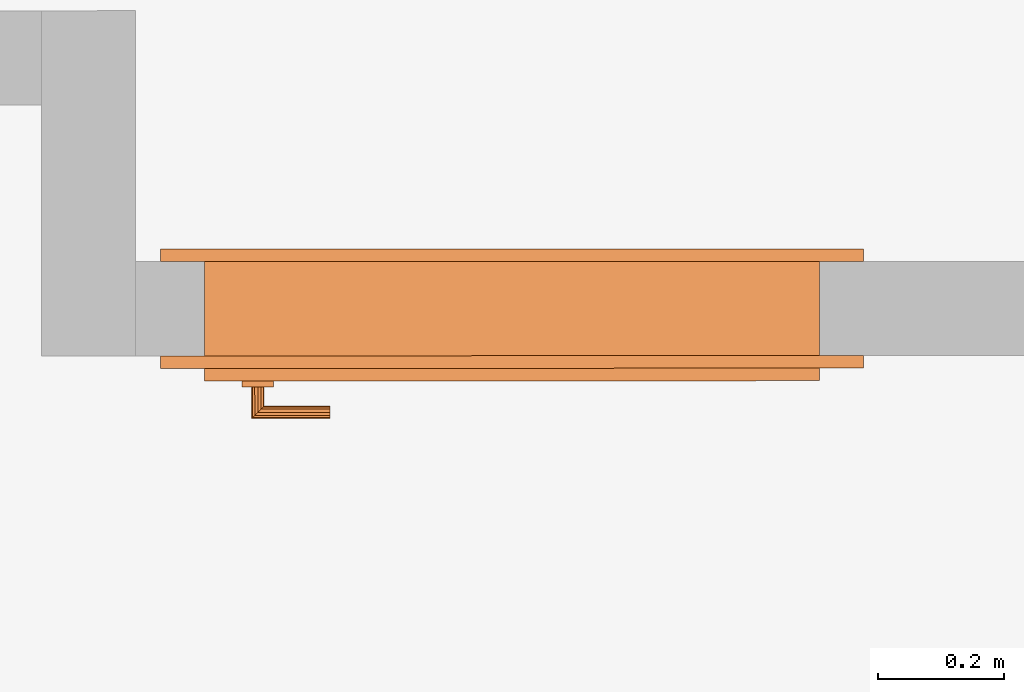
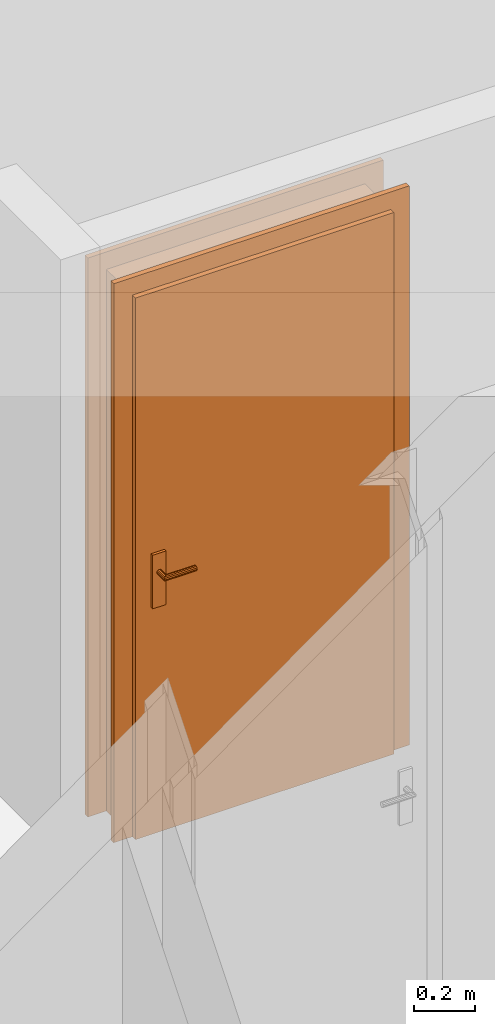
# One storey, part 8 of 9: 1 proxy.
"""IFC2X3 building model written with IfcOpenShell, lengths in metres."""

from ifc_helpers import new_model, entity, si_unit, converted_unit, derived_unit, direction, frame, origin, origin_with_axes, place, context, subcontext, project, spatial, faceted_brep, source, transform, mapped, element, save


model = new_model("IFC2X3")

# Units and contexts
model_context = context("Model", 3, precision=1e-05, world=origin(), true_north=direction((0.772621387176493, -0.634867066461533)))
body_context = subcontext(model_context, "Body", "Model", "MODEL_VIEW")
ifc_project = project(units=[si_unit("LENGTHUNIT", "METRE"), si_unit("AREAUNIT", "SQUARE_METRE"), si_unit("VOLUMEUNIT", "CUBIC_METRE"), si_unit("MASSUNIT", "GRAM", prefix="KILO"), converted_unit("PLANEANGLEUNIT", "DEGREE", entity("IfcPlaneAngleMeasure", 0.0174532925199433), si_unit("PLANEANGLEUNIT", "RADIAN"), dimensions=[0, 0, 0, 0, 0, 0, 0]), derived_unit("THERMALTRANSMITTANCEUNIT", [(si_unit("POWERUNIT", "WATT"), 1), (si_unit("THERMODYNAMICTEMPERATUREUNIT", "KELVIN"), -1), (si_unit("LENGTHUNIT", "METRE"), -2)]), derived_unit("VOLUMETRICFLOWRATEUNIT", [(si_unit("LENGTHUNIT", "METRE"), 3), (converted_unit("TIMEUNIT", "hour", entity("IfcTimeMeasure", 3600.0), si_unit("TIMEUNIT", "SECOND"), dimensions=[0, 0, 1, 0, 0, 0, 0]), -1), (si_unit("LENGTHUNIT", "METRE"), -1)])], contexts=[model_context])

# Site, building, storey
site_placement = place(None, origin())
site = spatial("IfcSite", under=ifc_project, at=site_placement, Name="Modelle auf dem Nullpunkt", CompositionType="ELEMENT")
building_placement = place(site_placement, origin())
building = spatial("IfcBuilding", under=site, at=building_placement, Name="I", CompositionType="ELEMENT")
storey_placement = place(building_placement, origin())
storey = spatial("IfcBuildingStorey", under=building, at=storey_placement, Name="UG", CompositionType="ELEMENT", Elevation=0.0)

# Proxy
shared_shape = source(origin_with_axes(), body_context, "Body", "Brep", [
    faceted_brep([(1.05000000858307, 0.190000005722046, 2.17), (1.03000000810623, 0.190000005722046, 2.17), (1.03000000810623, 0.190000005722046, 0.0), (1.05000000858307, 0.190000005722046, 0.0), (1.05000000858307, 0.0, 0.0), (1.03000000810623, 0.0, 0.0), (1.03000000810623, 0.0, 2.17), (1.05000000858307, 0.0, 2.17)], [[[0, 1, 2, 3]], [[4, 5, 6, 7]], [[3, 4, 7, 0]], [[2, 5, 4, 3]], [[1, 6, 5, 2]], [[0, 7, 6, 1]]], orient=[[False], [False], [False], [False], [False], [False]]),
    faceted_brep([(1.05000000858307, 0.190000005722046, 2.24), (1.05000000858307, 0.190000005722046, 0.0), (1.12000000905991, 0.190000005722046, 0.0), (1.12000000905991, 0.190000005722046, 2.24), (1.05000000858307, 0.170000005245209, 0.0), (1.05000000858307, 0.170000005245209, 2.24), (1.12000000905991, 0.170000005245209, 2.24), (1.12000000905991, 0.170000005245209, 0.0)], [[[0, 1, 2, 3]], [[4, 5, 6, 7]], [[1, 0, 5, 4]], [[2, 1, 4, 7]], [[3, 2, 7, 6]], [[0, 3, 6, 5]]], orient=[[False], [False], [False], [False], [False], [False]]),
    faceted_brep([(1.05000000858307, 0.0200000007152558, 2.24), (1.05000000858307, 0.0200000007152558, 0.0), (1.12000000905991, 0.0200000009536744, 0.0), (1.12000000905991, 0.0200000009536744, 2.24), (1.05000000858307, 0.0, 0.0), (1.05000000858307, 0.0, 2.24), (1.12000000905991, 0.0, 2.24), (1.12000000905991, 0.0, 0.0)], [[[0, 1, 2, 3]], [[4, 5, 6, 7]], [[1, 0, 5, 4]], [[2, 1, 4, 7]], [[3, 2, 7, 6]], [[0, 3, 6, 5]]], orient=[[False], [False], [False], [False], [False], [False]]),
    faceted_brep([(0.0900000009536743, 0.190000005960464, 2.17), (0.0700000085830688, 0.190000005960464, 2.17), (0.0700000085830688, 0.190000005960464, 0.0), (0.0900000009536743, 0.190000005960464, 0.0), (0.0900000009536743, 0.0, 0.0), (0.0700000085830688, 0.0, 0.0), (0.0700000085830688, 0.0, 2.17), (0.0900000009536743, 0.0, 2.17)], [[[0, 1, 2, 3]], [[4, 5, 6, 7]], [[3, 4, 7, 0]], [[2, 5, 4, 3]], [[1, 6, 5, 2]], [[0, 7, 6, 1]]], orient=[[False], [False], [False], [False], [False], [False]]),
    faceted_brep([(0.0700000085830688, 0.190000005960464, 2.24), (0.0, 0.190000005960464, 2.24), (0.0, 0.190000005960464, 0.0), (0.0700000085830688, 0.190000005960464, 0.0), (0.0700000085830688, 0.170000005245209, 0.0), (0.0, 0.170000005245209, 0.0), (0.0, 0.170000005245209, 2.24), (0.0700000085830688, 0.170000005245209, 2.24)], [[[0, 1, 2, 3]], [[4, 5, 6, 7]], [[3, 4, 7, 0]], [[2, 5, 4, 3]], [[1, 6, 5, 2]], [[0, 7, 6, 1]]], orient=[[False], [False], [False], [False], [False], [False]]),
    faceted_brep([(0.0700000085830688, 0.0200000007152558, 2.24), (0.0, 0.0200000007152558, 2.24), (0.0, 0.0200000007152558, 0.0), (0.0700000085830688, 0.0200000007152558, 0.0), (0.0700000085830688, 0.0, 0.0), (0.0, 0.0, 0.0), (0.0, 0.0, 2.24), (0.0700000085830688, 0.0, 2.24)], [[[0, 1, 2, 3]], [[4, 5, 6, 7]], [[3, 4, 7, 0]], [[2, 5, 4, 3]], [[1, 6, 5, 2]], [[0, 7, 6, 1]]], orient=[[False], [False], [False], [False], [False], [False]]),
    faceted_brep([(1.03000000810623, 0.190000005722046, 2.17), (0.0900000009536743, 0.190000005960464, 2.17), (0.0900000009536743, 0.190000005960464, 2.15), (1.03000000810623, 0.190000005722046, 2.15), (1.03000000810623, 0.0, 2.15), (0.0900000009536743, 0.0, 2.15), (0.0900000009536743, 0.0, 2.17), (1.03000000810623, 0.0, 2.17)], [[[0, 1, 2, 3]], [[4, 5, 6, 7]], [[3, 4, 7, 0]], [[2, 5, 4, 3]], [[1, 6, 5, 2]], [[0, 7, 6, 1]]], orient=[[False], [False], [False], [False], [False], [False]]),
    faceted_brep([(1.05000000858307, 0.190000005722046, 2.24), (0.0700000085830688, 0.190000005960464, 2.24), (0.0700000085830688, 0.190000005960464, 2.17), (1.05000000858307, 0.190000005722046, 2.17), (1.05000000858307, 0.170000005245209, 2.17), (0.0700000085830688, 0.170000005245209, 2.17), (0.0700000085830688, 0.170000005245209, 2.24), (1.05000000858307, 0.170000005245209, 2.24)], [[[0, 1, 2, 3]], [[4, 5, 6, 7]], [[3, 4, 7, 0]], [[2, 5, 4, 3]], [[1, 6, 5, 2]], [[0, 7, 6, 1]]], orient=[[False], [False], [False], [False], [False], [False]]),
    faceted_brep([(1.05000000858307, 0.0200000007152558, 2.24), (0.0700000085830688, 0.0200000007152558, 2.24), (0.0700000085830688, 0.0200000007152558, 2.17), (1.05000000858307, 0.0200000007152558, 2.17), (1.05000000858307, 0.0, 2.17), (0.0700000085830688, 0.0, 2.17), (0.0700000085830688, 0.0, 2.24), (1.05000000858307, 0.0, 2.24)], [[[0, 1, 2, 3]], [[4, 5, 6, 7]], [[3, 4, 7, 0]], [[2, 5, 4, 3]], [[1, 6, 5, 2]], [[0, 7, 6, 1]]], orient=[[False], [False], [False], [False], [False], [False]]),
    faceted_brep([(1.05000000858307, 0.210000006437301, 2.17), (0.0700000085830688, 0.210000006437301, 2.17), (0.0700000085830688, 0.210000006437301, 0.0), (1.05000000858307, 0.210000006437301, 0.0), (1.05000000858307, 0.170000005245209, 0.0), (0.0700000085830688, 0.170000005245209, 0.0), (0.0700000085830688, 0.170000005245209, 2.17), (1.05000000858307, 0.170000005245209, 2.17)], [[[0, 1, 2, 3]], [[4, 5, 6, 7]], [[3, 4, 7, 0]], [[2, 5, 4, 3]], [[1, 6, 5, 2]], [[0, 7, 6, 1]]], orient=[[False], [False], [False], [False], [False], [False]]),
    faceted_brep([(0.990000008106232, 0.170000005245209, 1.125), (0.940000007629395, 0.170000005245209, 1.125), (0.940000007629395, 0.170000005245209, 0.91), (0.990000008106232, 0.170000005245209, 0.91), (0.990000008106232, 0.160000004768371, 0.91), (0.940000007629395, 0.16000000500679, 0.91), (0.940000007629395, 0.16000000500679, 1.125), (0.990000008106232, 0.160000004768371, 1.125)], [[[0, 1, 2, 3]], [[4, 5, 6, 7]], [[3, 4, 7, 0]], [[2, 5, 4, 3]], [[1, 6, 5, 2]], [[0, 7, 6, 1]]], orient=[[False], [False], [False], [False], [False], [False]]),
    faceted_brep([(0.965000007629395, 0.160000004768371, 1.06), (0.960000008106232, 0.16000000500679, 1.05866025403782), (0.956339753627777, 0.160000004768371, 1.055), (0.955000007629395, 0.16000000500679, 1.05), (0.956339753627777, 0.160000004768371, 1.045), (0.960000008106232, 0.16000000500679, 1.04133974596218), (0.965000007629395, 0.160000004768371, 1.04), (0.970000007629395, 0.160000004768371, 1.04133974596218), (0.973660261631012, 0.16000000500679, 1.045), (0.975000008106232, 0.160000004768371, 1.05), (0.973660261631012, 0.16000000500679, 1.055), (0.970000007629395, 0.160000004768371, 1.05866025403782), (0.970000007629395, 0.115000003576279, 1.05866025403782), (0.965000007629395, 0.120000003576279, 1.06), (0.973660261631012, 0.111339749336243, 1.055), (0.975000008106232, 0.11000000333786, 1.05), (0.973660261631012, 0.111339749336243, 1.045), (0.970000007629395, 0.115000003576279, 1.04133974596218), (0.965000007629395, 0.120000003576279, 1.04), (0.960000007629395, 0.125000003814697, 1.04133974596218), (0.956339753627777, 0.128660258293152, 1.045), (0.955000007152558, 0.130000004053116, 1.05), (0.956339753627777, 0.128660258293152, 1.055), (0.960000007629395, 0.125000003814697, 1.05866025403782), (0.85000000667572, 0.120000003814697, 1.06), (0.85000000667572, 0.115000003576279, 1.05866025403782), (0.85000000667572, 0.111339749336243, 1.055), (0.85000000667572, 0.11000000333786, 1.05), (0.85000000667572, 0.111339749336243, 1.045), (0.85000000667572, 0.115000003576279, 1.04133974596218), (0.85000000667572, 0.120000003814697, 1.04), (0.85000000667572, 0.125000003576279, 1.04133974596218), (0.85000000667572, 0.128660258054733, 1.045), (0.85000000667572, 0.130000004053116, 1.05), (0.85000000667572, 0.128660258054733, 1.055), (0.85000000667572, 0.125000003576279, 1.05866025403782)], [[[0, 1, 2, 3, 4, 5, 6, 7, 8, 9, 10, 11]], [[0, 11, 12, 13]], [[11, 10, 14, 12]], [[10, 9, 15, 14]], [[9, 8, 16, 15]], [[8, 7, 17, 16]], [[7, 6, 18, 17]], [[6, 5, 19, 18]], [[5, 4, 20, 19]], [[4, 3, 21, 20]], [[3, 2, 22, 21]], [[2, 1, 23, 22]], [[1, 0, 13, 23]], [[24, 25, 26, 27, 28, 29, 30, 31, 32, 33, 34, 35]], [[13, 12, 25, 24]], [[12, 14, 26, 25]], [[14, 15, 27, 26]], [[15, 16, 28, 27]], [[16, 17, 29, 28]], [[17, 18, 30, 29]], [[18, 19, 31, 30]], [[19, 20, 32, 31]], [[20, 21, 33, 32]], [[21, 22, 34, 33]], [[22, 23, 35, 34]], [[23, 13, 24, 35]]], orient=[[False], [False], [False], [False], [False], [False], [False], [False], [False], [False], [False], [False], [False], [False], [False], [False], [False], [False], [False], [False], [False], [False], [False], [False], [False], [False]]),
    faceted_brep([(0.990000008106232, 0.210000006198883, 1.125), (0.990000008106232, 0.210000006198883, 0.91), (0.940000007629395, 0.210000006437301, 0.91), (0.940000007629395, 0.210000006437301, 1.125), (0.990000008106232, 0.220000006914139, 0.91), (0.990000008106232, 0.220000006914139, 1.125), (0.940000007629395, 0.22000000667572, 1.125), (0.940000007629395, 0.22000000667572, 0.91)], [[[0, 1, 2, 3]], [[4, 5, 6, 7]], [[1, 0, 5, 4]], [[2, 1, 4, 7]], [[3, 2, 7, 6]], [[0, 3, 6, 5]]], orient=[[False], [False], [False], [False], [False], [False]]),
    faceted_brep([(0.965000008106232, 0.220000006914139, 1.06), (0.970000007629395, 0.220000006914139, 1.05866025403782), (0.973660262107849, 0.22000000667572, 1.055), (0.975000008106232, 0.220000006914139, 1.05), (0.973660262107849, 0.22000000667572, 1.045), (0.970000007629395, 0.220000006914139, 1.04133974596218), (0.965000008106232, 0.220000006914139, 1.04), (0.960000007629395, 0.220000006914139, 1.04133974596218), (0.956339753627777, 0.220000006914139, 1.045), (0.955000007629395, 0.22000000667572, 1.05), (0.956339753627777, 0.220000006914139, 1.055), (0.960000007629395, 0.220000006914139, 1.05866025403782), (0.965000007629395, 0.260000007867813, 1.06), (0.970000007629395, 0.265000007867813, 1.05866025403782), (0.973660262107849, 0.268660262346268, 1.055), (0.975000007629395, 0.270000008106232, 1.05), (0.973660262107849, 0.268660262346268, 1.045), (0.970000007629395, 0.265000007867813, 1.04133974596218), (0.965000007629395, 0.260000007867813, 1.04), (0.960000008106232, 0.255000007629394, 1.04133974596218), (0.956339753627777, 0.251339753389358, 1.045), (0.955000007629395, 0.250000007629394, 1.05), (0.956339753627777, 0.251339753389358, 1.055), (0.960000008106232, 0.255000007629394, 1.05866025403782), (0.850000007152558, 0.260000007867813, 1.06), (0.85000000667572, 0.255000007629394, 1.05866025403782), (0.85000000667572, 0.251339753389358, 1.055), (0.850000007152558, 0.250000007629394, 1.05), (0.85000000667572, 0.251339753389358, 1.045), (0.85000000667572, 0.255000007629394, 1.04133974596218), (0.850000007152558, 0.260000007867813, 1.04), (0.85000000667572, 0.265000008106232, 1.04133974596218), (0.85000000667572, 0.268660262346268, 1.045), (0.850000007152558, 0.270000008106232, 1.05), (0.85000000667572, 0.268660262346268, 1.055), (0.85000000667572, 0.265000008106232, 1.05866025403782)], [[[0, 1, 2, 3, 4, 5, 6, 7, 8, 9, 10, 11]], [[0, 12, 13, 1]], [[1, 13, 14, 2]], [[2, 14, 15, 3]], [[3, 15, 16, 4]], [[4, 16, 17, 5]], [[5, 17, 18, 6]], [[6, 18, 19, 7]], [[7, 19, 20, 8]], [[8, 20, 21, 9]], [[9, 21, 22, 10]], [[10, 22, 23, 11]], [[11, 23, 12, 0]], [[24, 25, 26, 27, 28, 29, 30, 31, 32, 33, 34, 35]], [[12, 24, 35, 13]], [[13, 35, 34, 14]], [[14, 34, 33, 15]], [[15, 33, 32, 16]], [[16, 32, 31, 17]], [[17, 31, 30, 18]], [[18, 30, 29, 19]], [[19, 29, 28, 20]], [[20, 28, 27, 21]], [[21, 27, 26, 22]], [[22, 26, 25, 23]], [[23, 25, 24, 12]]], orient=[[False], [False], [False], [False], [False], [False], [False], [False], [False], [False], [False], [False], [False], [False], [False], [False], [False], [False], [False], [False], [False], [False], [False], [False], [False], [False]]),
])
proxy_placement = place(storey_placement, frame((38.7729439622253, -0.680061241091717, 433.22), z_axis=(0.0, 0.0, 1.0), x_axis=(-0.9999999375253, -0.000353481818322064, 0.0)))
element("IfcBuildingElementProxy", 1, at=proxy_placement, inside=storey, Name="1flg Weiß UZ außen", context=body_context, shape_type="MappedRepresentation", body=[
    mapped(shared_shape, transform((0.0, 0.0, 0.0), x_axis=(1.0, 0.0, 0.0), y_axis=(0.0, 1.0, 0.0), z_axis=(0.0, 0.0, 1.0), scale=1.0)),
])

save(model, "model.ifc")
